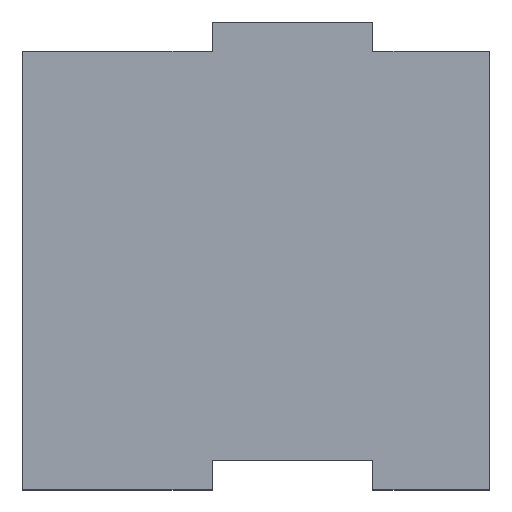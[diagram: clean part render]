
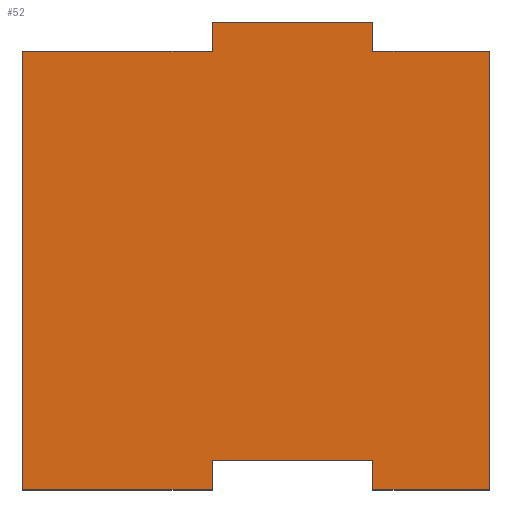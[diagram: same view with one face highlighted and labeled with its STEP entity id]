
A CAD part, top view. The second image highlights one B-rep face of the part: STEP entity #52.
In plain terms, the highlighted planar face has unit normal (0, 0, 1).
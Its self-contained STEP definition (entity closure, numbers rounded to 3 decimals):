
#5 = ORIENTED_EDGE ( 'NONE', *, *, #460, .T. ) ;
#8 = ORIENTED_EDGE ( 'NONE', *, *, #469, .T. ) ;
#9 = ORIENTED_EDGE ( 'NONE', *, *, #457, .T. ) ;
#11 = EDGE_CURVE ( 'NONE', #282, #162, #151, .T. ) ;
#19 = LINE ( 'NONE', #392, #120 ) ;
#25 = CARTESIAN_POINT ( 'NONE',  ( 0., 30., 0. ) ) ;
#36 = CARTESIAN_POINT ( 'NONE',  ( 24., 32., 0. ) ) ;
#37 = LINE ( 'NONE', #184, #264 ) ;
#40 = EDGE_CURVE ( 'NONE', #398, #291, #360, .T. ) ;
#42 = VECTOR ( 'NONE', #56, 1000. ) ;
#52 = ADVANCED_FACE ( 'NONE', ( #459 ), #230, .F. ) ;
#53 = EDGE_CURVE ( 'NONE', #121, #498, #37, .T. ) ;
#54 = DIRECTION ( 'NONE',  ( 1., 0., 0. ) ) ;
#56 = DIRECTION ( 'NONE',  ( -1., 0., 0. ) ) ;
#60 = DIRECTION ( 'NONE',  ( -1., 0., 0. ) ) ;
#61 = CARTESIAN_POINT ( 'NONE',  ( 32., 0., 0. ) ) ;
#62 = AXIS2_PLACEMENT_3D ( 'NONE', #401, #316, #60 ) ;
#65 = VERTEX_POINT ( 'NONE', #25 ) ;
#69 = CARTESIAN_POINT ( 'NONE',  ( 13., 0., 0. ) ) ;
#75 = CARTESIAN_POINT ( 'NONE',  ( 13., 0., 0. ) ) ;
#79 = DIRECTION ( 'NONE',  ( 1., 0., 0. ) ) ;
#80 = LINE ( 'NONE', #118, #520 ) ;
#85 = CARTESIAN_POINT ( 'NONE',  ( 24., 30., 0. ) ) ;
#96 = DIRECTION ( 'NONE',  ( 0., -1., 0. ) ) ;
#105 = ORIENTED_EDGE ( 'NONE', *, *, #290, .T. ) ;
#106 = ORIENTED_EDGE ( 'NONE', *, *, #158, .T. ) ;
#108 = DIRECTION ( 'NONE',  ( -1., 0., 0. ) ) ;
#114 = LINE ( 'NONE', #186, #42 ) ;
#116 = DIRECTION ( 'NONE',  ( 0., -1., 0. ) ) ;
#118 = CARTESIAN_POINT ( 'NONE',  ( 13., 2., 0. ) ) ;
#120 = VECTOR ( 'NONE', #108, 1000. ) ;
#121 = VERTEX_POINT ( 'NONE', #61 ) ;
#148 = EDGE_CURVE ( 'NONE', #498, #337, #114, .T. ) ;
#151 = LINE ( 'NONE', #384, #321 ) ;
#152 = CARTESIAN_POINT ( 'NONE',  ( 24., 0., 0. ) ) ;
#154 = DIRECTION ( 'NONE',  ( -1., 0., 0. ) ) ;
#158 = EDGE_CURVE ( 'NONE', #291, #65, #19, .T. ) ;
#162 = VERTEX_POINT ( 'NONE', #272 ) ;
#170 = VERTEX_POINT ( 'NONE', #237 ) ;
#175 = LINE ( 'NONE', #437, #367 ) ;
#184 = CARTESIAN_POINT ( 'NONE',  ( 32., 30., 0. ) ) ;
#186 = CARTESIAN_POINT ( 'NONE',  ( 24., 30., 0. ) ) ;
#192 = EDGE_CURVE ( 'NONE', #337, #350, #443, .T. ) ;
#193 = CARTESIAN_POINT ( 'NONE',  ( 32., 30., 0. ) ) ;
#195 = VERTEX_POINT ( 'NONE', #69 ) ;
#198 = VECTOR ( 'NONE', #277, 1000. ) ;
#208 = LINE ( 'NONE', #241, #539 ) ;
#211 = ORIENTED_EDGE ( 'NONE', *, *, #339, .T. ) ;
#220 = VECTOR ( 'NONE', #96, 1000. ) ;
#226 = CARTESIAN_POINT ( 'NONE',  ( 13., 30., 0. ) ) ;
#230 = PLANE ( 'NONE',  #62 ) ;
#231 = VERTEX_POINT ( 'NONE', #244 ) ;
#233 = ORIENTED_EDGE ( 'NONE', *, *, #53, .T. ) ;
#237 = CARTESIAN_POINT ( 'NONE',  ( 24., 0., 0. ) ) ;
#241 = CARTESIAN_POINT ( 'NONE',  ( 13., 32., 0. ) ) ;
#244 = CARTESIAN_POINT ( 'NONE',  ( 0., 0., 0. ) ) ;
#246 = CARTESIAN_POINT ( 'NONE',  ( 13., 30., 0. ) ) ;
#251 = LINE ( 'NONE', #286, #266 ) ;
#264 = VECTOR ( 'NONE', #517, 1000. ) ;
#266 = VECTOR ( 'NONE', #492, 1000. ) ;
#272 = CARTESIAN_POINT ( 'NONE',  ( 24., 2., 0. ) ) ;
#277 = DIRECTION ( 'NONE',  ( 0., 1., 0. ) ) ;
#281 = DIRECTION ( 'NONE',  ( 0., 1., 0. ) ) ;
#282 = VERTEX_POINT ( 'NONE', #404 ) ;
#283 = ORIENTED_EDGE ( 'NONE', *, *, #298, .T. ) ;
#286 = CARTESIAN_POINT ( 'NONE',  ( 0., 0., 0. ) ) ;
#290 = EDGE_CURVE ( 'NONE', #350, #398, #208, .T. ) ;
#291 = VERTEX_POINT ( 'NONE', #246 ) ;
#298 = EDGE_CURVE ( 'NONE', #195, #282, #80, .T. ) ;
#302 = VECTOR ( 'NONE', #317, 1000. ) ;
#316 = DIRECTION ( 'NONE',  ( 0., 0., -1. ) ) ;
#317 = DIRECTION ( 'NONE',  ( 1., 0., 0. ) ) ;
#321 = VECTOR ( 'NONE', #54, 1000. ) ;
#329 = ORIENTED_EDGE ( 'NONE', *, *, #11, .T. ) ;
#337 = VERTEX_POINT ( 'NONE', #85 ) ;
#339 = EDGE_CURVE ( 'NONE', #65, #231, #251, .T. ) ;
#350 = VERTEX_POINT ( 'NONE', #36 ) ;
#360 = LINE ( 'NONE', #226, #220 ) ;
#367 = VECTOR ( 'NONE', #79, 1000. ) ;
#371 = CARTESIAN_POINT ( 'NONE',  ( 13., 32., 0. ) ) ;
#384 = CARTESIAN_POINT ( 'NONE',  ( 24., 2., 0. ) ) ;
#392 = CARTESIAN_POINT ( 'NONE',  ( 0., 30., 0. ) ) ;
#398 = VERTEX_POINT ( 'NONE', #371 ) ;
#401 = CARTESIAN_POINT ( 'NONE',  ( 0., 0., 0. ) ) ;
#404 = CARTESIAN_POINT ( 'NONE',  ( 13., 2., 0. ) ) ;
#426 = VECTOR ( 'NONE', #116, 1000. ) ;
#437 = CARTESIAN_POINT ( 'NONE',  ( 32., 0., 0. ) ) ;
#443 = LINE ( 'NONE', #522, #198 ) ;
#457 = EDGE_CURVE ( 'NONE', #231, #195, #512, .T. ) ;
#459 = FACE_OUTER_BOUND ( 'NONE', #488, .T. ) ;
#460 = EDGE_CURVE ( 'NONE', #170, #121, #175, .T. ) ;
#469 = EDGE_CURVE ( 'NONE', #162, #170, #481, .T. ) ;
#478 = ORIENTED_EDGE ( 'NONE', *, *, #192, .T. ) ;
#481 = LINE ( 'NONE', #152, #426 ) ;
#486 = ORIENTED_EDGE ( 'NONE', *, *, #40, .T. ) ;
#488 = EDGE_LOOP ( 'NONE', ( #9, #283, #329, #8, #5, #233, #509, #478, #105, #486, #106, #211 ) ) ;
#492 = DIRECTION ( 'NONE',  ( 0., -1., 0. ) ) ;
#498 = VERTEX_POINT ( 'NONE', #193 ) ;
#509 = ORIENTED_EDGE ( 'NONE', *, *, #148, .T. ) ;
#512 = LINE ( 'NONE', #75, #302 ) ;
#517 = DIRECTION ( 'NONE',  ( 0., 1., 0. ) ) ;
#520 = VECTOR ( 'NONE', #281, 1000. ) ;
#522 = CARTESIAN_POINT ( 'NONE',  ( 24., 32., 0. ) ) ;
#539 = VECTOR ( 'NONE', #154, 1000. ) ;
